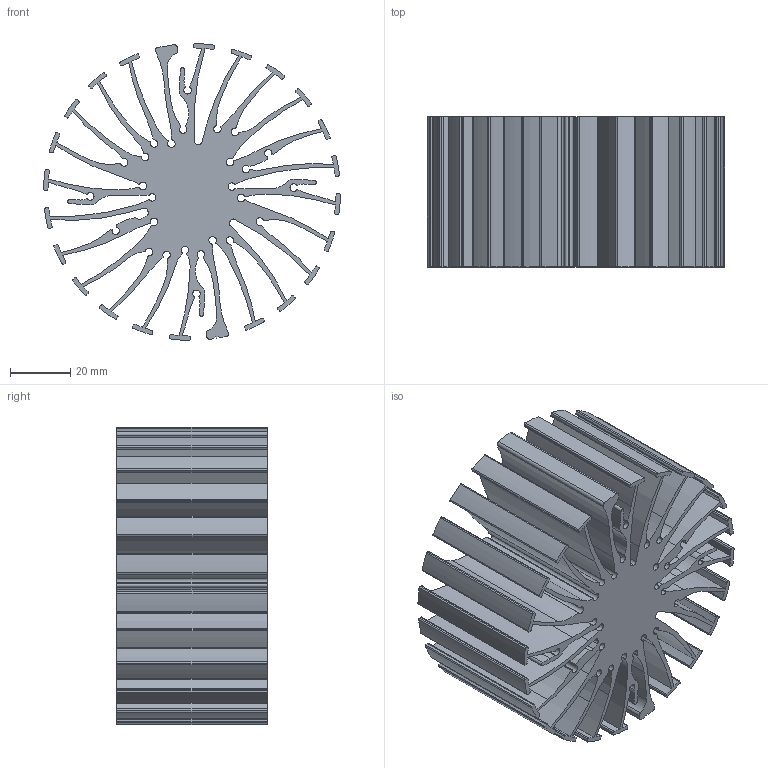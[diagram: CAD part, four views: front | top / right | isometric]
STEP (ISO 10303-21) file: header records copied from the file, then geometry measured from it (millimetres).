
FILE_DESCRIPTION (( 'STEP AP203' ), '1' );
FILE_NAME ('XSA-97-B.STEP', '2014-04-02T06:54:46', ( '' ), ( '' ), 'SwSTEP 2.0', 'SolidWorks 2013', '' );
FILE_SCHEMA (( 'CONFIG_CONTROL_DESIGN' ));
Length unit declared in the file: millimetre
Products named in the file (1): XSA-97-B
Bounding box: 98.98 x 50 x 98.98 mm (x, y, z)
Volume: 138283.7 mm3; surface area: 103077.7 mm2
Topology: 1 solids, 1 shells, 447 faces, 1335 edges, 890 vertices
Faces by surface type: cylinder 383, plane 64
Entity records: 15552 total; most frequent: DIRECTION 2997, CARTESIAN_POINT 2673, ORIENTED_EDGE 2670, EDGE_CURVE 1335, AXIS2_PLACEMENT_3D 1214, VERTEX_POINT 890, CIRCLE 766, VECTOR 569
